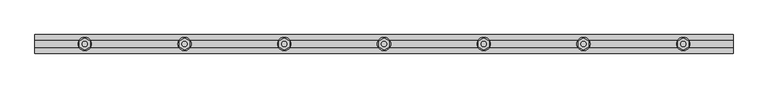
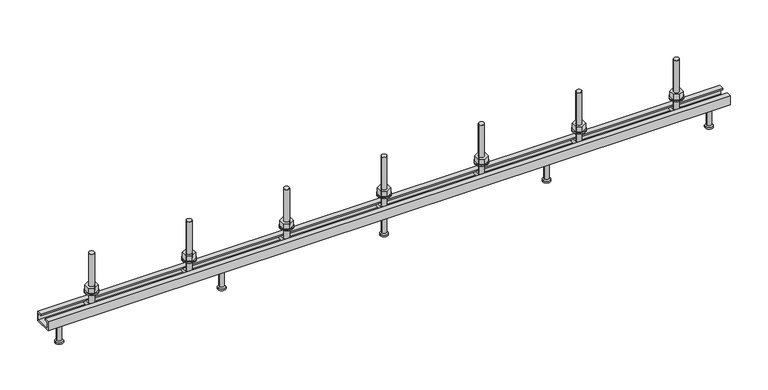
"""IFC4 building model written with IfcOpenShell, lengths in millimetres: fastener geometry, JTA-K JORDAHL® AnchorChannels : JTA-K L=1050 mm."""

from ifc_helpers import new_model, si_unit, point, frame, frame_2d, origin, place, context, project, spatial, polyline, circle_curve, trimmed, segment, composite_curve, outline, extrude, source, transform, mapped, element, save
from ifc_brep_helpers import plane_surface, cylinder_surface, revolved_surface, advanced_brep


def fastener_a3984f85(model_context):
    return source(origin(), model_context, "Body", "SolidModel", [
        extrude(outline(polyline([(825.0, 9.2376043), (833.0, 4.6188022), (833.0, -4.6188022), (825.0, -9.2376043), (817.0, -4.6188022), (817.0, 4.6188022), (825.0, 9.2376043)]), holes=[composite_curve([segment(trimmed(circle_curve(frame_2d((825.0, 0.0)), 4.0), [point((821.0, 0.0))], [point((829.0, 0.0))], True, "CARTESIAN"), True, "CONTINUOUS"), segment(trimmed(circle_curve(frame_2d((825.0, 0.0)), 4.0), [point((829.0, 0.0))], [point((821.0, 0.0))], True, "CARTESIAN"), True, "CONTINUOUS")], self_intersect=False)]), frame((0.0, 0.0, 17.0), z_axis=(0.0, 0.0, 1.0), x_axis=(1.0, 0.0, 0.0)), (0.0, 0.0, 1.0), 8.4),
        extrude(outline(composite_curve([segment(trimmed(circle_curve(frame_2d((825.0, 0.0)), 10.0), [point((815.0, 0.0))], [point((835.0, 0.0))], False, "CARTESIAN"), True, "CONTINUOUS"), segment(trimmed(circle_curve(frame_2d((825.0, 0.0)), 10.0), [point((835.0, 0.0))], [point((815.0, 0.0))], False, "CARTESIAN"), True, "CONTINUOUS")], self_intersect=False), holes=[composite_curve([segment(trimmed(circle_curve(frame_2d((825.0, 0.0)), 5.25), [point((819.75, 0.0))], [point((830.25, 0.0))], True, "CARTESIAN"), True, "CONTINUOUS"), segment(trimmed(circle_curve(frame_2d((825.0, 0.0)), 5.25), [point((830.25, 0.0))], [point((819.75, 0.0))], True, "CARTESIAN"), True, "CONTINUOUS")], self_intersect=False)]), frame((0.0, 0.0, 15.0), z_axis=(0.0, 0.0, 1.0), x_axis=(1.0, 0.0, 0.0)), (0.0, 0.0, 1.0), 2.0),
        extrude(outline(polyline([(675.0, 9.2376043), (683.0, 4.6188022), (683.0, -4.6188022), (675.0, -9.2376043), (667.0, -4.6188022), (667.0, 4.6188022), (675.0, 9.2376043)]), holes=[composite_curve([segment(trimmed(circle_curve(frame_2d((675.0, 0.0)), 4.0), [point((671.0, 0.0))], [point((679.0, 0.0))], True, "CARTESIAN"), True, "CONTINUOUS"), segment(trimmed(circle_curve(frame_2d((675.0, 0.0)), 4.0), [point((679.0, 0.0))], [point((671.0, 0.0))], True, "CARTESIAN"), True, "CONTINUOUS")], self_intersect=False)]), frame((0.0, 0.0, 17.0), z_axis=(0.0, 0.0, 1.0), x_axis=(1.0, 0.0, 0.0)), (0.0, 0.0, 1.0), 8.4),
        extrude(outline(composite_curve([segment(trimmed(circle_curve(frame_2d((675.0, 0.0)), 10.0), [point((665.0, 0.0))], [point((685.0, 0.0))], False, "CARTESIAN"), True, "CONTINUOUS"), segment(trimmed(circle_curve(frame_2d((675.0, 0.0)), 10.0), [point((685.0, 0.0))], [point((665.0, 0.0))], False, "CARTESIAN"), True, "CONTINUOUS")], self_intersect=False), holes=[composite_curve([segment(trimmed(circle_curve(frame_2d((675.0, 0.0)), 5.25), [point((669.75, 0.0))], [point((680.25, 0.0))], True, "CARTESIAN"), True, "CONTINUOUS"), segment(trimmed(circle_curve(frame_2d((675.0, 0.0)), 5.25), [point((680.25, 0.0))], [point((669.75, 0.0))], True, "CARTESIAN"), True, "CONTINUOUS")], self_intersect=False)]), frame((0.0, 0.0, 15.0), z_axis=(0.0, 0.0, 1.0), x_axis=(1.0, 0.0, 0.0)), (0.0, 0.0, 1.0), 2.0),
        extrude(outline(polyline([(525.0, 9.2376043), (533.0, 4.6188022), (533.0, -4.6188022), (525.0, -9.2376043), (517.0, -4.6188022), (517.0, 4.6188022), (525.0, 9.2376043)]), holes=[composite_curve([segment(trimmed(circle_curve(frame_2d((525.0, 0.0)), 4.0), [point((521.0, 0.0))], [point((529.0, 0.0))], True, "CARTESIAN"), True, "CONTINUOUS"), segment(trimmed(circle_curve(frame_2d((525.0, 0.0)), 4.0), [point((529.0, 0.0))], [point((521.0, 0.0))], True, "CARTESIAN"), True, "CONTINUOUS")], self_intersect=False)]), frame((0.0, 0.0, 17.0), z_axis=(0.0, 0.0, 1.0), x_axis=(1.0, 0.0, 0.0)), (0.0, 0.0, 1.0), 8.4),
        extrude(outline(composite_curve([segment(trimmed(circle_curve(frame_2d((525.0, 0.0)), 10.0), [point((515.0, 0.0))], [point((535.0, 0.0))], False, "CARTESIAN"), True, "CONTINUOUS"), segment(trimmed(circle_curve(frame_2d((525.0, 0.0)), 10.0), [point((535.0, 0.0))], [point((515.0, 0.0))], False, "CARTESIAN"), True, "CONTINUOUS")], self_intersect=False), holes=[composite_curve([segment(trimmed(circle_curve(frame_2d((525.0, 0.0)), 5.25), [point((519.75, 0.0))], [point((530.25, 0.0))], True, "CARTESIAN"), True, "CONTINUOUS"), segment(trimmed(circle_curve(frame_2d((525.0, 0.0)), 5.25), [point((530.25, 0.0))], [point((519.75, 0.0))], True, "CARTESIAN"), True, "CONTINUOUS")], self_intersect=False)]), frame((0.0, 0.0, 15.0), z_axis=(0.0, 0.0, 1.0), x_axis=(1.0, 0.0, 0.0)), (0.0, 0.0, 1.0), 2.0),
        extrude(outline(polyline([(375.0, 9.2376043), (383.0, 4.6188022), (383.0, -4.6188022), (375.0, -9.2376043), (367.0, -4.6188022), (367.0, 4.6188022), (375.0, 9.2376043)]), holes=[composite_curve([segment(trimmed(circle_curve(frame_2d((375.0, 0.0)), 4.0), [point((371.0, 0.0))], [point((379.0, 0.0))], True, "CARTESIAN"), True, "CONTINUOUS"), segment(trimmed(circle_curve(frame_2d((375.0, 0.0)), 4.0), [point((379.0, 0.0))], [point((371.0, 0.0))], True, "CARTESIAN"), True, "CONTINUOUS")], self_intersect=False)]), frame((0.0, 0.0, 17.0), z_axis=(0.0, 0.0, 1.0), x_axis=(1.0, 0.0, 0.0)), (0.0, 0.0, 1.0), 8.4),
        extrude(outline(composite_curve([segment(trimmed(circle_curve(frame_2d((375.0, 0.0)), 10.0), [point((365.0, 0.0))], [point((385.0, 0.0))], False, "CARTESIAN"), True, "CONTINUOUS"), segment(trimmed(circle_curve(frame_2d((375.0, 0.0)), 10.0), [point((385.0, 0.0))], [point((365.0, 0.0))], False, "CARTESIAN"), True, "CONTINUOUS")], self_intersect=False), holes=[composite_curve([segment(trimmed(circle_curve(frame_2d((375.0, 0.0)), 5.25), [point((369.75, 0.0))], [point((380.25, 0.0))], True, "CARTESIAN"), True, "CONTINUOUS"), segment(trimmed(circle_curve(frame_2d((375.0, 0.0)), 5.25), [point((380.25, 0.0))], [point((369.75, 0.0))], True, "CARTESIAN"), True, "CONTINUOUS")], self_intersect=False)]), frame((0.0, 0.0, 15.0), z_axis=(0.0, 0.0, 1.0), x_axis=(1.0, 0.0, 0.0)), (0.0, 0.0, 1.0), 2.0),
        extrude(outline(polyline([(225.0, 9.2376043), (233.0, 4.6188022), (233.0, -4.6188022), (225.0, -9.2376043), (217.0, -4.6188022), (217.0, 4.6188022), (225.0, 9.2376043)]), holes=[composite_curve([segment(trimmed(circle_curve(frame_2d((225.0, 0.0)), 4.0), [point((221.0, 0.0))], [point((229.0, 0.0))], True, "CARTESIAN"), True, "CONTINUOUS"), segment(trimmed(circle_curve(frame_2d((225.0, 0.0)), 4.0), [point((229.0, 0.0))], [point((221.0, 0.0))], True, "CARTESIAN"), True, "CONTINUOUS")], self_intersect=False)]), frame((0.0, 0.0, 17.0), z_axis=(0.0, 0.0, 1.0), x_axis=(1.0, 0.0, 0.0)), (0.0, 0.0, 1.0), 8.4),
        extrude(outline(composite_curve([segment(trimmed(circle_curve(frame_2d((225.0, 0.0)), 10.0), [point((215.0, 0.0))], [point((235.0, 0.0))], False, "CARTESIAN"), True, "CONTINUOUS"), segment(trimmed(circle_curve(frame_2d((225.0, 0.0)), 10.0), [point((235.0, 0.0))], [point((215.0, 0.0))], False, "CARTESIAN"), True, "CONTINUOUS")], self_intersect=False), holes=[composite_curve([segment(trimmed(circle_curve(frame_2d((225.0, 0.0)), 5.25), [point((219.75, 0.0))], [point((230.25, 0.0))], True, "CARTESIAN"), True, "CONTINUOUS"), segment(trimmed(circle_curve(frame_2d((225.0, 0.0)), 5.25), [point((230.25, 0.0))], [point((219.75, 0.0))], True, "CARTESIAN"), True, "CONTINUOUS")], self_intersect=False)]), frame((0.0, 0.0, 15.0), z_axis=(0.0, 0.0, 1.0), x_axis=(1.0, 0.0, 0.0)), (0.0, 0.0, 1.0), 2.0),
        advanced_brep(
        [(830.5, 11.0, -2.3), (830.5, -11.0, -2.3), (830.5, -11.0, -8.3), (830.5, 11.0, -8.3), (819.5, 11.0, -2.3), (819.5, 11.0, -8.3), (819.5, -11.0, -8.3), (819.5, -11.0, -2.3), (829.0, 0.0, -2.3), (821.0, 0.0, -2.3), (821.0, 0.0, 77.7), (829.0, 0.0, 77.7)],
        [
            (0, 1),
            (1, 2),
            (2, 3),
            (3, 0),
            (4, 5),
            (5, 6),
            (6, 7),
            (7, 4),
            (0, 4),
            (7, 1),
            (8, 9, circle_curve(frame((825.0, 0.0, -2.3), z_axis=(0.0, 0.0, -1.0), x_axis=(1.0, 0.0, 0.0)), 4.0)),
            (9, 8, circle_curve(frame((825.0, 0.0, -2.3), z_axis=(0.0, 0.0, -1.0), x_axis=(1.0, 0.0, 0.0)), 4.0)),
            (6, 2),
            (5, 3),
            (10, 11, circle_curve(frame((825.0, 0.0, 77.7), z_axis=(0.0, 0.0, 1.0), x_axis=(1.0, 0.0, 0.0)), 4.0)),
            (11, 10, circle_curve(frame((825.0, 0.0, 77.7), z_axis=(0.0, 0.0, 1.0), x_axis=(1.0, 0.0, 0.0)), 4.0)),
            (10, 9),
            (8, 11),
        ],
        [
            plane_surface(frame((830.5, -11.0, -2.3), z_axis=(1.0, 0.0, 0.0), x_axis=(0.0, -1.0, 0.0))),
            plane_surface(frame((819.5, -11.0, -2.3), z_axis=(-1.0, 0.0, 0.0), x_axis=(0.0, 1.0, 0.0))),
            plane_surface(frame((830.5, 11.0, -2.3), z_axis=(0.0, 0.0, 1.0), x_axis=(-1.0, 0.0, 0.0))),
            plane_surface(frame((830.5, -11.0, -2.3), z_axis=(0.0, -1.0, 0.0), x_axis=(-1.0, 0.0, 0.0))),
            plane_surface(frame((830.5, -11.0, -8.3), z_axis=(0.0, 0.0, -1.0), x_axis=(-1.0, 0.0, 0.0))),
            plane_surface(frame((830.5, 11.0, -8.3), z_axis=(0.0, 1.0, 0.0), x_axis=(-1.0, 0.0, 0.0))),
            plane_surface(frame((829.0, 0.0, 77.7), z_axis=(0.0, 0.0, 1.0), x_axis=(0.0, 1.0, 0.0))),
            cylinder_surface(frame((825.0, 0.0, -2.3), z_axis=(0.0, 0.0, 1.0), x_axis=(1.0, 0.0, 0.0)), 4.0),
        ],
        [
            (0, [[1, 2, 3, 4]]),
            (1, [[5, 6, 7, 8]]),
            (2, [[-1, 9, -8, 10], [11, 12]]),
            (3, [[-2, -10, -7, 13]]),
            (4, [[-3, -13, -6, 14]]),
            (5, [[-4, -14, -5, -9]]),
            (6, [[15, 16]]),
            (7, [[-15, 17, -11, 18]]),
            (7, [[-16, -18, -12, -17]]),
        ],
    ),
        advanced_brep(
        [(680.5, 11.0, -2.3), (680.5, -11.0, -2.3), (680.5, -11.0, -8.3), (680.5, 11.0, -8.3), (669.5, 11.0, -2.3), (669.5, 11.0, -8.3), (669.5, -11.0, -8.3), (669.5, -11.0, -2.3), (679.0, 0.0, -2.3), (671.0, 0.0, -2.3), (671.0, 0.0, 77.7), (679.0, 0.0, 77.7)],
        [
            (0, 1),
            (1, 2),
            (2, 3),
            (3, 0),
            (4, 5),
            (5, 6),
            (6, 7),
            (7, 4),
            (0, 4),
            (7, 1),
            (8, 9, circle_curve(frame((675.0, 0.0, -2.3), z_axis=(0.0, 0.0, -1.0), x_axis=(1.0, 0.0, 0.0)), 4.0)),
            (9, 8, circle_curve(frame((675.0, 0.0, -2.3), z_axis=(0.0, 0.0, -1.0), x_axis=(1.0, 0.0, 0.0)), 4.0)),
            (6, 2),
            (5, 3),
            (10, 11, circle_curve(frame((675.0, 0.0, 77.7), z_axis=(0.0, 0.0, 1.0), x_axis=(1.0, 0.0, 0.0)), 4.0)),
            (11, 10, circle_curve(frame((675.0, 0.0, 77.7), z_axis=(0.0, 0.0, 1.0), x_axis=(1.0, 0.0, 0.0)), 4.0)),
            (10, 9),
            (8, 11),
        ],
        [
            plane_surface(frame((680.5, -11.0, -2.3), z_axis=(1.0, 0.0, 0.0), x_axis=(0.0, -1.0, 0.0))),
            plane_surface(frame((669.5, -11.0, -2.3), z_axis=(-1.0, 0.0, 0.0), x_axis=(0.0, 1.0, 0.0))),
            plane_surface(frame((680.5, 11.0, -2.3), z_axis=(0.0, 0.0, 1.0), x_axis=(-1.0, 0.0, 0.0))),
            plane_surface(frame((680.5, -11.0, -2.3), z_axis=(0.0, -1.0, 0.0), x_axis=(-1.0, 0.0, 0.0))),
            plane_surface(frame((680.5, -11.0, -8.3), z_axis=(0.0, 0.0, -1.0), x_axis=(-1.0, 0.0, 0.0))),
            plane_surface(frame((680.5, 11.0, -8.3), z_axis=(0.0, 1.0, 0.0), x_axis=(-1.0, 0.0, 0.0))),
            plane_surface(frame((679.0, 0.0, 77.7), z_axis=(0.0, 0.0, 1.0), x_axis=(0.0, 1.0, 0.0))),
            cylinder_surface(frame((675.0, 0.0, -2.3), z_axis=(0.0, 0.0, 1.0), x_axis=(1.0, 0.0, 0.0)), 4.0),
        ],
        [
            (0, [[1, 2, 3, 4]]),
            (1, [[5, 6, 7, 8]]),
            (2, [[-1, 9, -8, 10], [11, 12]]),
            (3, [[-2, -10, -7, 13]]),
            (4, [[-3, -13, -6, 14]]),
            (5, [[-4, -14, -5, -9]]),
            (6, [[15, 16]]),
            (7, [[-15, 17, -11, 18]]),
            (7, [[-16, -18, -12, -17]]),
        ],
    ),
        advanced_brep(
        [(530.5, 11.0, -2.3), (530.5, -11.0, -2.3), (530.5, -11.0, -8.3), (530.5, 11.0, -8.3), (519.5, 11.0, -2.3), (519.5, 11.0, -8.3), (519.5, -11.0, -8.3), (519.5, -11.0, -2.3), (529.0, 0.0, -2.3), (521.0, 0.0, -2.3), (521.0, 0.0, 77.7), (529.0, 0.0, 77.7)],
        [
            (0, 1),
            (1, 2),
            (2, 3),
            (3, 0),
            (4, 5),
            (5, 6),
            (6, 7),
            (7, 4),
            (0, 4),
            (7, 1),
            (8, 9, circle_curve(frame((525.0, 0.0, -2.3), z_axis=(0.0, 0.0, -1.0), x_axis=(1.0, 0.0, 0.0)), 4.0)),
            (9, 8, circle_curve(frame((525.0, 0.0, -2.3), z_axis=(0.0, 0.0, -1.0), x_axis=(1.0, 0.0, 0.0)), 4.0)),
            (6, 2),
            (5, 3),
            (10, 11, circle_curve(frame((525.0, 0.0, 77.7), z_axis=(0.0, 0.0, 1.0), x_axis=(1.0, 0.0, 0.0)), 4.0)),
            (11, 10, circle_curve(frame((525.0, 0.0, 77.7), z_axis=(0.0, 0.0, 1.0), x_axis=(1.0, 0.0, 0.0)), 4.0)),
            (10, 9),
            (8, 11),
        ],
        [
            plane_surface(frame((530.5, -11.0, -2.3), z_axis=(1.0, 0.0, 0.0), x_axis=(0.0, -1.0, 0.0))),
            plane_surface(frame((519.5, -11.0, -2.3), z_axis=(-1.0, 0.0, 0.0), x_axis=(0.0, 1.0, 0.0))),
            plane_surface(frame((530.5, 11.0, -2.3), z_axis=(0.0, 0.0, 1.0), x_axis=(-1.0, 0.0, 0.0))),
            plane_surface(frame((530.5, -11.0, -2.3), z_axis=(0.0, -1.0, 0.0), x_axis=(-1.0, 0.0, 0.0))),
            plane_surface(frame((530.5, -11.0, -8.3), z_axis=(0.0, 0.0, -1.0), x_axis=(-1.0, 0.0, 0.0))),
            plane_surface(frame((530.5, 11.0, -8.3), z_axis=(0.0, 1.0, 0.0), x_axis=(-1.0, 0.0, 0.0))),
            plane_surface(frame((529.0, 0.0, 77.7), z_axis=(0.0, 0.0, 1.0), x_axis=(0.0, 1.0, 0.0))),
            cylinder_surface(frame((525.0, 0.0, -2.3), z_axis=(0.0, 0.0, 1.0), x_axis=(1.0, 0.0, 0.0)), 4.0),
        ],
        [
            (0, [[1, 2, 3, 4]]),
            (1, [[5, 6, 7, 8]]),
            (2, [[-1, 9, -8, 10], [11, 12]]),
            (3, [[-2, -10, -7, 13]]),
            (4, [[-3, -13, -6, 14]]),
            (5, [[-4, -14, -5, -9]]),
            (6, [[15, 16]]),
            (7, [[-15, 17, -11, 18]]),
            (7, [[-16, -18, -12, -17]]),
        ],
    ),
        advanced_brep(
        [(380.5, 11.0, -2.3), (380.5, -11.0, -2.3), (380.5, -11.0, -8.3), (380.5, 11.0, -8.3), (369.5, 11.0, -2.3), (369.5, 11.0, -8.3), (369.5, -11.0, -8.3), (369.5, -11.0, -2.3), (379.0, 0.0, -2.3), (371.0, 0.0, -2.3), (371.0, 0.0, 77.7), (379.0, 0.0, 77.7)],
        [
            (0, 1),
            (1, 2),
            (2, 3),
            (3, 0),
            (4, 5),
            (5, 6),
            (6, 7),
            (7, 4),
            (0, 4),
            (7, 1),
            (8, 9, circle_curve(frame((375.0, 0.0, -2.3), z_axis=(0.0, 0.0, -1.0), x_axis=(1.0, 0.0, 0.0)), 4.0)),
            (9, 8, circle_curve(frame((375.0, 0.0, -2.3), z_axis=(0.0, 0.0, -1.0), x_axis=(1.0, 0.0, 0.0)), 4.0)),
            (6, 2),
            (5, 3),
            (10, 11, circle_curve(frame((375.0, 0.0, 77.7), z_axis=(0.0, 0.0, 1.0), x_axis=(1.0, 0.0, 0.0)), 4.0)),
            (11, 10, circle_curve(frame((375.0, 0.0, 77.7), z_axis=(0.0, 0.0, 1.0), x_axis=(1.0, 0.0, 0.0)), 4.0)),
            (10, 9),
            (8, 11),
        ],
        [
            plane_surface(frame((380.5, -11.0, -2.3), z_axis=(1.0, 0.0, 0.0), x_axis=(0.0, -1.0, 0.0))),
            plane_surface(frame((369.5, -11.0, -2.3), z_axis=(-1.0, 0.0, 0.0), x_axis=(0.0, 1.0, 0.0))),
            plane_surface(frame((380.5, 11.0, -2.3), z_axis=(0.0, 0.0, 1.0), x_axis=(-1.0, 0.0, 0.0))),
            plane_surface(frame((380.5, -11.0, -2.3), z_axis=(0.0, -1.0, 0.0), x_axis=(-1.0, 0.0, 0.0))),
            plane_surface(frame((380.5, -11.0, -8.3), z_axis=(0.0, 0.0, -1.0), x_axis=(-1.0, 0.0, 0.0))),
            plane_surface(frame((380.5, 11.0, -8.3), z_axis=(0.0, 1.0, 0.0), x_axis=(-1.0, 0.0, 0.0))),
            plane_surface(frame((379.0, 0.0, 77.7), z_axis=(0.0, 0.0, 1.0), x_axis=(0.0, 1.0, 0.0))),
            cylinder_surface(frame((375.0, 0.0, -2.3), z_axis=(0.0, 0.0, 1.0), x_axis=(1.0, 0.0, 0.0)), 4.0),
        ],
        [
            (0, [[1, 2, 3, 4]]),
            (1, [[5, 6, 7, 8]]),
            (2, [[-1, 9, -8, 10], [11, 12]]),
            (3, [[-2, -10, -7, 13]]),
            (4, [[-3, -13, -6, 14]]),
            (5, [[-4, -14, -5, -9]]),
            (6, [[15, 16]]),
            (7, [[-15, 17, -11, 18]]),
            (7, [[-16, -18, -12, -17]]),
        ],
    ),
        advanced_brep(
        [(230.5, 11.0, -2.3), (230.5, -11.0, -2.3), (230.5, -11.0, -8.3), (230.5, 11.0, -8.3), (219.5, 11.0, -2.3), (219.5, 11.0, -8.3), (219.5, -11.0, -8.3), (219.5, -11.0, -2.3), (229.0, 0.0, -2.3), (221.0, 0.0, -2.3), (221.0, 0.0, 77.7), (229.0, 0.0, 77.7)],
        [
            (0, 1),
            (1, 2),
            (2, 3),
            (3, 0),
            (4, 5),
            (5, 6),
            (6, 7),
            (7, 4),
            (0, 4),
            (7, 1),
            (8, 9, circle_curve(frame((225.0, 0.0, -2.3), z_axis=(0.0, 0.0, -1.0), x_axis=(1.0, 0.0, 0.0)), 4.0)),
            (9, 8, circle_curve(frame((225.0, 0.0, -2.3), z_axis=(0.0, 0.0, -1.0), x_axis=(1.0, 0.0, 0.0)), 4.0)),
            (6, 2),
            (5, 3),
            (10, 11, circle_curve(frame((225.0, 0.0, 77.7), z_axis=(0.0, 0.0, 1.0), x_axis=(1.0, 0.0, 0.0)), 4.0)),
            (11, 10, circle_curve(frame((225.0, 0.0, 77.7), z_axis=(0.0, 0.0, 1.0), x_axis=(1.0, 0.0, 0.0)), 4.0)),
            (10, 9),
            (8, 11),
        ],
        [
            plane_surface(frame((230.5, -11.0, -2.3), z_axis=(1.0, 0.0, 0.0), x_axis=(0.0, -1.0, 0.0))),
            plane_surface(frame((219.5, -11.0, -2.3), z_axis=(-1.0, 0.0, 0.0), x_axis=(0.0, 1.0, 0.0))),
            plane_surface(frame((230.5, 11.0, -2.3), z_axis=(0.0, 0.0, 1.0), x_axis=(-1.0, 0.0, 0.0))),
            plane_surface(frame((230.5, -11.0, -2.3), z_axis=(0.0, -1.0, 0.0), x_axis=(-1.0, 0.0, 0.0))),
            plane_surface(frame((230.5, -11.0, -8.3), z_axis=(0.0, 0.0, -1.0), x_axis=(-1.0, 0.0, 0.0))),
            plane_surface(frame((230.5, 11.0, -8.3), z_axis=(0.0, 1.0, 0.0), x_axis=(-1.0, 0.0, 0.0))),
            plane_surface(frame((229.0, 0.0, 77.7), z_axis=(0.0, 0.0, 1.0), x_axis=(0.0, 1.0, 0.0))),
            cylinder_surface(frame((225.0, 0.0, -2.3), z_axis=(0.0, 0.0, 1.0), x_axis=(1.0, 0.0, 0.0)), 4.0),
        ],
        [
            (0, [[1, 2, 3, 4]]),
            (1, [[5, 6, 7, 8]]),
            (2, [[-1, 9, -8, 10], [11, 12]]),
            (3, [[-2, -10, -7, 13]]),
            (4, [[-3, -13, -6, 14]]),
            (5, [[-4, -14, -5, -9]]),
            (6, [[15, 16]]),
            (7, [[-15, 17, -11, 18]]),
            (7, [[-16, -18, -12, -17]]),
        ],
    ),
        advanced_brep(
        [(775.0, 0.0, -15.0), (785.5, 0.0, -15.0), (764.5, 0.0, -15.0), (769.0, 0.0, -50.0), (781.0, 0.0, -50.0), (775.0, 0.0, -50.0), (769.0, 0.0, -48.0), (781.0, 0.0, -48.0), (771.5, 0.0, -46.5566243), (778.5, 0.0, -46.5566243), (771.5, 0.0, -17.5), (778.5, 0.0, -17.5)],
        [
            (0, 1),
            (1, 2, circle_curve(frame((775.0, 0.0, -15.0), z_axis=(0.0, 0.0, 1.0), x_axis=(1.0, 0.0, 0.0)), 10.5)),
            (2, 0),
            (2, 1, circle_curve(frame((775.0, 0.0, -15.0), z_axis=(0.0, 0.0, 1.0), x_axis=(1.0, 0.0, 0.0)), 10.5)),
            (3, 4, circle_curve(frame((775.0, 0.0, -50.0), z_axis=(0.0, 0.0, -1.0), x_axis=(1.0, 0.0, 0.0)), 6.0)),
            (4, 5),
            (5, 3),
            (4, 3, circle_curve(frame((775.0, 0.0, -50.0), z_axis=(0.0, 0.0, -1.0), x_axis=(1.0, 0.0, 0.0)), 6.0)),
            (6, 7, circle_curve(frame((775.0, 0.0, -48.0), z_axis=(0.0, 0.0, -1.0), x_axis=(1.0, 0.0, 0.0)), 6.0)),
            (7, 4),
            (3, 6),
            (7, 6, circle_curve(frame((775.0, 0.0, -48.0), z_axis=(0.0, 0.0, -1.0), x_axis=(1.0, 0.0, 0.0)), 6.0)),
            (8, 9, circle_curve(frame((775.0, 0.0, -46.5566243), z_axis=(0.0, 0.0, -1.0), x_axis=(1.0, 0.0, 0.0)), 3.5)),
            (9, 7),
            (6, 8),
            (9, 8, circle_curve(frame((775.0, 0.0, -46.5566243), z_axis=(0.0, 0.0, -1.0), x_axis=(1.0, 0.0, 0.0)), 3.5)),
            (10, 11, circle_curve(frame((775.0, 0.0, -17.5), z_axis=(0.0, 0.0, -1.0), x_axis=(1.0, 0.0, 0.0)), 3.5)),
            (11, 9),
            (8, 10),
            (11, 10, circle_curve(frame((775.0, 0.0, -17.5), z_axis=(0.0, 0.0, -1.0), x_axis=(1.0, 0.0, 0.0)), 3.5)),
            (1, 11),
            (10, 2),
        ],
        [
            plane_surface(frame((775.0, 0.0, -15.0), z_axis=(0.0, 0.0, 1.0), x_axis=(1.0, 0.0, 0.0))),
            plane_surface(frame((775.0, 0.0, -50.0), z_axis=(0.0, 0.0, -1.0), x_axis=(1.0, 0.0, 0.0))),
            cylinder_surface(frame((775.0, 0.0, 2249.3150031), z_axis=(0.0, 0.0, 1.0), x_axis=(1.0, 0.0, 0.0)), 6.0),
            revolved_surface(polyline([(781.0, 0.0, -48.0), (778.5, 0.0, -46.5566243)]), (775.0, 0.0, 2249.3150031), (0.0, 0.0, 1.0)),
            cylinder_surface(frame((775.0, 0.0, 2249.3150031), z_axis=(0.0, 0.0, 1.0), x_axis=(1.0, 0.0, 0.0)), 3.5),
            revolved_surface(polyline([(778.5, 0.0, -17.5), (785.5, 0.0, -15.0)]), (775.0, 0.0, 2249.3150031), (0.0, 0.0, 1.0)),
        ],
        [
            (0, [[1, 2, 3]]),
            (0, [[-3, 4, -1]]),
            (1, [[5, 6, 7]]),
            (1, [[8, -7, -6]]),
            (2, [[9, 10, -5, 11]]),
            (2, [[12, -11, -8, -10]]),
            (3, [[13, 14, -9, 15]]),
            (3, [[16, -15, -12, -14]]),
            (4, [[17, 18, -13, 19]]),
            (4, [[20, -19, -16, -18]]),
            (5, [[-2, 21, -17, 22]]),
            (5, [[-4, -22, -20, -21]]),
        ],
    ),
        advanced_brep(
        [(525.0, 0.0, -15.0), (535.5, 0.0, -15.0), (514.5, 0.0, -15.0), (519.0, 0.0, -50.0), (531.0, 0.0, -50.0), (525.0, 0.0, -50.0), (519.0, 0.0, -48.0), (531.0, 0.0, -48.0), (521.5, 0.0, -46.5566243), (528.5, 0.0, -46.5566243), (521.5, 0.0, -17.5), (528.5, 0.0, -17.5)],
        [
            (0, 1),
            (1, 2, circle_curve(frame((525.0, 0.0, -15.0), z_axis=(0.0, 0.0, 1.0), x_axis=(1.0, 0.0, 0.0)), 10.5)),
            (2, 0),
            (2, 1, circle_curve(frame((525.0, 0.0, -15.0), z_axis=(0.0, 0.0, 1.0), x_axis=(1.0, 0.0, 0.0)), 10.5)),
            (3, 4, circle_curve(frame((525.0, 0.0, -50.0), z_axis=(0.0, 0.0, -1.0), x_axis=(1.0, 0.0, 0.0)), 6.0)),
            (4, 5),
            (5, 3),
            (4, 3, circle_curve(frame((525.0, 0.0, -50.0), z_axis=(0.0, 0.0, -1.0), x_axis=(1.0, 0.0, 0.0)), 6.0)),
            (6, 7, circle_curve(frame((525.0, 0.0, -48.0), z_axis=(0.0, 0.0, -1.0), x_axis=(1.0, 0.0, 0.0)), 6.0)),
            (7, 4),
            (3, 6),
            (7, 6, circle_curve(frame((525.0, 0.0, -48.0), z_axis=(0.0, 0.0, -1.0), x_axis=(1.0, 0.0, 0.0)), 6.0)),
            (8, 9, circle_curve(frame((525.0, 0.0, -46.5566243), z_axis=(0.0, 0.0, -1.0), x_axis=(1.0, 0.0, 0.0)), 3.5)),
            (9, 7),
            (6, 8),
            (9, 8, circle_curve(frame((525.0, 0.0, -46.5566243), z_axis=(0.0, 0.0, -1.0), x_axis=(1.0, 0.0, 0.0)), 3.5)),
            (10, 11, circle_curve(frame((525.0, 0.0, -17.5), z_axis=(0.0, 0.0, -1.0), x_axis=(1.0, 0.0, 0.0)), 3.5)),
            (11, 9),
            (8, 10),
            (11, 10, circle_curve(frame((525.0, 0.0, -17.5), z_axis=(0.0, 0.0, -1.0), x_axis=(1.0, 0.0, 0.0)), 3.5)),
            (1, 11),
            (10, 2),
        ],
        [
            plane_surface(frame((525.0, 0.0, -15.0), z_axis=(0.0, 0.0, 1.0), x_axis=(1.0, 0.0, 0.0))),
            plane_surface(frame((525.0, 0.0, -50.0), z_axis=(0.0, 0.0, -1.0), x_axis=(1.0, 0.0, 0.0))),
            cylinder_surface(frame((525.0, 0.0, 2249.3150031), z_axis=(0.0, 0.0, 1.0), x_axis=(1.0, 0.0, 0.0)), 6.0),
            revolved_surface(polyline([(531.0, 0.0, -48.0), (528.5, 0.0, -46.5566243)]), (525.0, 0.0, 2249.3150031), (0.0, 0.0, 1.0)),
            cylinder_surface(frame((525.0, 0.0, 2249.3150031), z_axis=(0.0, 0.0, 1.0), x_axis=(1.0, 0.0, 0.0)), 3.5),
            revolved_surface(polyline([(528.5, 0.0, -17.5), (535.5, 0.0, -15.0)]), (525.0, 0.0, 2249.3150031), (0.0, 0.0, 1.0)),
        ],
        [
            (0, [[1, 2, 3]]),
            (0, [[-3, 4, -1]]),
            (1, [[5, 6, 7]]),
            (1, [[8, -7, -6]]),
            (2, [[9, 10, -5, 11]]),
            (2, [[12, -11, -8, -10]]),
            (3, [[13, 14, -9, 15]]),
            (3, [[16, -15, -12, -14]]),
            (4, [[17, 18, -13, 19]]),
            (4, [[20, -19, -16, -18]]),
            (5, [[-2, 21, -17, 22]]),
            (5, [[-4, -22, -20, -21]]),
        ],
    ),
        advanced_brep(
        [(275.0, 0.0, -15.0), (285.5, 0.0, -15.0), (264.5, 0.0, -15.0), (269.0, 0.0, -50.0), (281.0, 0.0, -50.0), (275.0, 0.0, -50.0), (269.0, 0.0, -48.0), (281.0, 0.0, -48.0), (271.5, 0.0, -46.5566243), (278.5, 0.0, -46.5566243), (271.5, 0.0, -17.5), (278.5, 0.0, -17.5)],
        [
            (0, 1),
            (1, 2, circle_curve(frame((275.0, 0.0, -15.0), z_axis=(0.0, 0.0, 1.0), x_axis=(1.0, 0.0, 0.0)), 10.5)),
            (2, 0),
            (2, 1, circle_curve(frame((275.0, 0.0, -15.0), z_axis=(0.0, 0.0, 1.0), x_axis=(1.0, 0.0, 0.0)), 10.5)),
            (3, 4, circle_curve(frame((275.0, 0.0, -50.0), z_axis=(0.0, 0.0, -1.0), x_axis=(1.0, 0.0, 0.0)), 6.0)),
            (4, 5),
            (5, 3),
            (4, 3, circle_curve(frame((275.0, 0.0, -50.0), z_axis=(0.0, 0.0, -1.0), x_axis=(1.0, 0.0, 0.0)), 6.0)),
            (6, 7, circle_curve(frame((275.0, 0.0, -48.0), z_axis=(0.0, 0.0, -1.0), x_axis=(1.0, 0.0, 0.0)), 6.0)),
            (7, 4),
            (3, 6),
            (7, 6, circle_curve(frame((275.0, 0.0, -48.0), z_axis=(0.0, 0.0, -1.0), x_axis=(1.0, 0.0, 0.0)), 6.0)),
            (8, 9, circle_curve(frame((275.0, 0.0, -46.5566243), z_axis=(0.0, 0.0, -1.0), x_axis=(1.0, 0.0, 0.0)), 3.5)),
            (9, 7),
            (6, 8),
            (9, 8, circle_curve(frame((275.0, 0.0, -46.5566243), z_axis=(0.0, 0.0, -1.0), x_axis=(1.0, 0.0, 0.0)), 3.5)),
            (10, 11, circle_curve(frame((275.0, 0.0, -17.5), z_axis=(0.0, 0.0, -1.0), x_axis=(1.0, 0.0, 0.0)), 3.5)),
            (11, 9),
            (8, 10),
            (11, 10, circle_curve(frame((275.0, 0.0, -17.5), z_axis=(0.0, 0.0, -1.0), x_axis=(1.0, 0.0, 0.0)), 3.5)),
            (1, 11),
            (10, 2),
        ],
        [
            plane_surface(frame((275.0, 0.0, -15.0), z_axis=(0.0, 0.0, 1.0), x_axis=(1.0, 0.0, 0.0))),
            plane_surface(frame((275.0, 0.0, -50.0), z_axis=(0.0, 0.0, -1.0), x_axis=(1.0, 0.0, 0.0))),
            cylinder_surface(frame((275.0, 0.0, 2249.3150031), z_axis=(0.0, 0.0, 1.0), x_axis=(1.0, 0.0, 0.0)), 6.0),
            revolved_surface(polyline([(281.0, 0.0, -48.0), (278.5, 0.0, -46.5566243)]), (275.0, 0.0, 2249.3150031), (0.0, 0.0, 1.0)),
            cylinder_surface(frame((275.0, 0.0, 2249.3150031), z_axis=(0.0, 0.0, 1.0), x_axis=(1.0, 0.0, 0.0)), 3.5),
            revolved_surface(polyline([(278.5, 0.0, -17.5), (285.5, 0.0, -15.0)]), (275.0, 0.0, 2249.3150031), (0.0, 0.0, 1.0)),
        ],
        [
            (0, [[1, 2, 3]]),
            (0, [[-3, 4, -1]]),
            (1, [[5, 6, 7]]),
            (1, [[8, -7, -6]]),
            (2, [[9, 10, -5, 11]]),
            (2, [[12, -11, -8, -10]]),
            (3, [[13, 14, -9, 15]]),
            (3, [[16, -15, -12, -14]]),
            (4, [[17, 18, -13, 19]]),
            (4, [[20, -19, -16, -18]]),
            (5, [[-2, 21, -17, 22]]),
            (5, [[-4, -22, -20, -21]]),
        ],
    ),
        extrude(outline(polyline([(975.0, 9.2376043), (983.0, 4.6188022), (983.0, -4.6188022), (975.0, -9.2376043), (967.0, -4.6188022), (967.0, 4.6188022), (975.0, 9.2376043)]), holes=[composite_curve([segment(trimmed(circle_curve(frame_2d((975.0, 0.0)), 4.0), [point((971.0, 0.0))], [point((979.0, 0.0))], True, "CARTESIAN"), True, "CONTINUOUS"), segment(trimmed(circle_curve(frame_2d((975.0, 0.0)), 4.0), [point((979.0, 0.0))], [point((971.0, 0.0))], True, "CARTESIAN"), True, "CONTINUOUS")], self_intersect=False)]), frame((0.0, 0.0, 17.0), z_axis=(0.0, 0.0, 1.0), x_axis=(1.0, 0.0, 0.0)), (0.0, 0.0, 1.0), 8.4),
        extrude(outline(composite_curve([segment(trimmed(circle_curve(frame_2d((975.0, 0.0)), 10.0), [point((965.0, 0.0))], [point((985.0, 0.0))], False, "CARTESIAN"), True, "CONTINUOUS"), segment(trimmed(circle_curve(frame_2d((975.0, 0.0)), 10.0), [point((985.0, 0.0))], [point((965.0, 0.0))], False, "CARTESIAN"), True, "CONTINUOUS")], self_intersect=False), holes=[composite_curve([segment(trimmed(circle_curve(frame_2d((975.0, 0.0)), 5.25), [point((969.75, 0.0))], [point((980.25, 0.0))], True, "CARTESIAN"), True, "CONTINUOUS"), segment(trimmed(circle_curve(frame_2d((975.0, 0.0)), 5.25), [point((980.25, 0.0))], [point((969.75, 0.0))], True, "CARTESIAN"), True, "CONTINUOUS")], self_intersect=False)]), frame((0.0, 0.0, 15.0), z_axis=(0.0, 0.0, 1.0), x_axis=(1.0, 0.0, 0.0)), (0.0, 0.0, 1.0), 2.0),
        extrude(outline(polyline([(75.0, 9.2376043), (83.0, 4.6188022), (83.0, -4.6188022), (75.0, -9.2376043), (67.0, -4.6188022), (67.0, 4.6188022), (75.0, 9.2376043)]), holes=[composite_curve([segment(trimmed(circle_curve(frame_2d((75.0, 0.0)), 4.0), [point((71.0, 0.0))], [point((79.0, 0.0))], True, "CARTESIAN"), True, "CONTINUOUS"), segment(trimmed(circle_curve(frame_2d((75.0, 0.0)), 4.0), [point((79.0, 0.0))], [point((71.0, 0.0))], True, "CARTESIAN"), True, "CONTINUOUS")], self_intersect=False)]), frame((0.0, 0.0, 17.0), z_axis=(0.0, 0.0, 1.0), x_axis=(1.0, 0.0, 0.0)), (0.0, 0.0, 1.0), 8.4),
        extrude(outline(composite_curve([segment(trimmed(circle_curve(frame_2d((75.0, 0.0)), 10.0), [point((65.0, 0.0))], [point((85.0, 0.0))], False, "CARTESIAN"), True, "CONTINUOUS"), segment(trimmed(circle_curve(frame_2d((75.0, 0.0)), 10.0), [point((85.0, 0.0))], [point((65.0, 0.0))], False, "CARTESIAN"), True, "CONTINUOUS")], self_intersect=False), holes=[composite_curve([segment(trimmed(circle_curve(frame_2d((75.0, 0.0)), 5.25), [point((69.75, 0.0))], [point((80.25, 0.0))], True, "CARTESIAN"), True, "CONTINUOUS"), segment(trimmed(circle_curve(frame_2d((75.0, 0.0)), 5.25), [point((80.25, 0.0))], [point((69.75, 0.0))], True, "CARTESIAN"), True, "CONTINUOUS")], self_intersect=False)]), frame((0.0, 0.0, 15.0), z_axis=(0.0, 0.0, 1.0), x_axis=(1.0, 0.0, 0.0)), (0.0, 0.0, 1.0), 2.0),
        advanced_brep(
        [(980.5, 11.0, -2.3), (980.5, -11.0, -2.3), (980.5, -11.0, -8.3), (980.5, 11.0, -8.3), (969.5, 11.0, -2.3), (969.5, 11.0, -8.3), (969.5, -11.0, -8.3), (969.5, -11.0, -2.3), (979.0, 0.0, -2.3), (971.0, 0.0, -2.3), (971.0, 0.0, 77.7), (979.0, 0.0, 77.7)],
        [
            (0, 1),
            (1, 2),
            (2, 3),
            (3, 0),
            (4, 5),
            (5, 6),
            (6, 7),
            (7, 4),
            (0, 4),
            (7, 1),
            (8, 9, circle_curve(frame((975.0, 0.0, -2.3), z_axis=(0.0, 0.0, -1.0), x_axis=(1.0, 0.0, 0.0)), 4.0)),
            (9, 8, circle_curve(frame((975.0, 0.0, -2.3), z_axis=(0.0, 0.0, -1.0), x_axis=(1.0, 0.0, 0.0)), 4.0)),
            (6, 2),
            (5, 3),
            (10, 11, circle_curve(frame((975.0, 0.0, 77.7), z_axis=(0.0, 0.0, 1.0), x_axis=(1.0, 0.0, 0.0)), 4.0)),
            (11, 10, circle_curve(frame((975.0, 0.0, 77.7), z_axis=(0.0, 0.0, 1.0), x_axis=(1.0, 0.0, 0.0)), 4.0)),
            (10, 9),
            (8, 11),
        ],
        [
            plane_surface(frame((980.5, -11.0, -2.3), z_axis=(1.0, 0.0, 0.0), x_axis=(0.0, -1.0, 0.0))),
            plane_surface(frame((969.5, -11.0, -2.3), z_axis=(-1.0, 0.0, 0.0), x_axis=(0.0, 1.0, 0.0))),
            plane_surface(frame((980.5, 11.0, -2.3), z_axis=(0.0, 0.0, 1.0), x_axis=(-1.0, 0.0, 0.0))),
            plane_surface(frame((980.5, -11.0, -2.3), z_axis=(0.0, -1.0, 0.0), x_axis=(-1.0, 0.0, 0.0))),
            plane_surface(frame((980.5, -11.0, -8.3), z_axis=(0.0, 0.0, -1.0), x_axis=(-1.0, 0.0, 0.0))),
            plane_surface(frame((980.5, 11.0, -8.3), z_axis=(0.0, 1.0, 0.0), x_axis=(-1.0, 0.0, 0.0))),
            plane_surface(frame((979.0, 0.0, 77.7), z_axis=(0.0, 0.0, 1.0), x_axis=(0.0, 1.0, 0.0))),
            cylinder_surface(frame((975.0, 0.0, -2.3), z_axis=(0.0, 0.0, 1.0), x_axis=(1.0, 0.0, 0.0)), 4.0),
        ],
        [
            (0, [[1, 2, 3, 4]]),
            (1, [[5, 6, 7, 8]]),
            (2, [[-1, 9, -8, 10], [11, 12]]),
            (3, [[-2, -10, -7, 13]]),
            (4, [[-3, -13, -6, 14]]),
            (5, [[-4, -14, -5, -9]]),
            (6, [[15, 16]]),
            (7, [[-15, 17, -11, 18]]),
            (7, [[-16, -18, -12, -17]]),
        ],
    ),
        advanced_brep(
        [(80.5, 11.0, -2.3), (80.5, -11.0, -2.3), (80.5, -11.0, -8.3), (80.5, 11.0, -8.3), (69.5, 11.0, -2.3), (69.5, 11.0, -8.3), (69.5, -11.0, -8.3), (69.5, -11.0, -2.3), (79.0, 0.0, -2.3), (71.0, 0.0, -2.3), (71.0, 0.0, 77.7), (79.0, 0.0, 77.7)],
        [
            (0, 1),
            (1, 2),
            (2, 3),
            (3, 0),
            (4, 5),
            (5, 6),
            (6, 7),
            (7, 4),
            (0, 4),
            (7, 1),
            (8, 9, circle_curve(frame((75.0, 0.0, -2.3), z_axis=(0.0, 0.0, -1.0), x_axis=(1.0, 0.0, 0.0)), 4.0)),
            (9, 8, circle_curve(frame((75.0, 0.0, -2.3), z_axis=(0.0, 0.0, -1.0), x_axis=(1.0, 0.0, 0.0)), 4.0)),
            (6, 2),
            (5, 3),
            (10, 11, circle_curve(frame((75.0, 0.0, 77.7), z_axis=(0.0, 0.0, 1.0), x_axis=(1.0, 0.0, 0.0)), 4.0)),
            (11, 10, circle_curve(frame((75.0, 0.0, 77.7), z_axis=(0.0, 0.0, 1.0), x_axis=(1.0, 0.0, 0.0)), 4.0)),
            (10, 9),
            (8, 11),
        ],
        [
            plane_surface(frame((80.5, -11.0, -2.3), z_axis=(1.0, 0.0, 0.0), x_axis=(0.0, -1.0, 0.0))),
            plane_surface(frame((69.5, -11.0, -2.3), z_axis=(-1.0, 0.0, 0.0), x_axis=(0.0, 1.0, 0.0))),
            plane_surface(frame((80.5, 11.0, -2.3), z_axis=(0.0, 0.0, 1.0), x_axis=(-1.0, 0.0, 0.0))),
            plane_surface(frame((80.5, -11.0, -2.3), z_axis=(0.0, -1.0, 0.0), x_axis=(-1.0, 0.0, 0.0))),
            plane_surface(frame((80.5, -11.0, -8.3), z_axis=(0.0, 0.0, -1.0), x_axis=(-1.0, 0.0, 0.0))),
            plane_surface(frame((80.5, 11.0, -8.3), z_axis=(0.0, 1.0, 0.0), x_axis=(-1.0, 0.0, 0.0))),
            plane_surface(frame((79.0, 0.0, 77.7), z_axis=(0.0, 0.0, 1.0), x_axis=(0.0, 1.0, 0.0))),
            cylinder_surface(frame((75.0, 0.0, -2.3), z_axis=(0.0, 0.0, 1.0), x_axis=(1.0, 0.0, 0.0)), 4.0),
        ],
        [
            (0, [[1, 2, 3, 4]]),
            (1, [[5, 6, 7, 8]]),
            (2, [[-1, 9, -8, 10], [11, 12]]),
            (3, [[-2, -10, -7, 13]]),
            (4, [[-3, -13, -6, 14]]),
            (5, [[-4, -14, -5, -9]]),
            (6, [[15, 16]]),
            (7, [[-15, 17, -11, 18]]),
            (7, [[-16, -18, -12, -17]]),
        ],
    ),
        advanced_brep(
        [(1025.0, 0.0, -15.0), (1035.5, 0.0, -15.0), (1014.5, 0.0, -15.0), (1019.0, 0.0, -50.0), (1031.0, 0.0, -50.0), (1025.0, 0.0, -50.0), (1019.0, 0.0, -48.0), (1031.0, 0.0, -48.0), (1021.5, 0.0, -46.5566243), (1028.5, 0.0, -46.5566243), (1021.5, 0.0, -17.5), (1028.5, 0.0, -17.5)],
        [
            (0, 1),
            (1, 2, circle_curve(frame((1025.0, 0.0, -15.0), z_axis=(0.0, 0.0, 1.0), x_axis=(1.0, 0.0, 0.0)), 10.5)),
            (2, 0),
            (2, 1, circle_curve(frame((1025.0, 0.0, -15.0), z_axis=(0.0, 0.0, 1.0), x_axis=(1.0, 0.0, 0.0)), 10.5)),
            (3, 4, circle_curve(frame((1025.0, 0.0, -50.0), z_axis=(0.0, 0.0, -1.0), x_axis=(1.0, 0.0, 0.0)), 6.0)),
            (4, 5),
            (5, 3),
            (4, 3, circle_curve(frame((1025.0, 0.0, -50.0), z_axis=(0.0, 0.0, -1.0), x_axis=(1.0, 0.0, 0.0)), 6.0)),
            (6, 7, circle_curve(frame((1025.0, 0.0, -48.0), z_axis=(0.0, 0.0, -1.0), x_axis=(1.0, 0.0, 0.0)), 6.0)),
            (7, 4),
            (3, 6),
            (7, 6, circle_curve(frame((1025.0, 0.0, -48.0), z_axis=(0.0, 0.0, -1.0), x_axis=(1.0, 0.0, 0.0)), 6.0)),
            (8, 9, circle_curve(frame((1025.0, 0.0, -46.5566243), z_axis=(0.0, 0.0, -1.0), x_axis=(1.0, 0.0, 0.0)), 3.5)),
            (9, 7),
            (6, 8),
            (9, 8, circle_curve(frame((1025.0, 0.0, -46.5566243), z_axis=(0.0, 0.0, -1.0), x_axis=(1.0, 0.0, 0.0)), 3.5)),
            (10, 11, circle_curve(frame((1025.0, 0.0, -17.5), z_axis=(0.0, 0.0, -1.0), x_axis=(1.0, 0.0, 0.0)), 3.5)),
            (11, 9),
            (8, 10),
            (11, 10, circle_curve(frame((1025.0, 0.0, -17.5), z_axis=(0.0, 0.0, -1.0), x_axis=(1.0, 0.0, 0.0)), 3.5)),
            (1, 11),
            (10, 2),
        ],
        [
            plane_surface(frame((1025.0, 0.0, -15.0), z_axis=(0.0, 0.0, 1.0), x_axis=(1.0, 0.0, 0.0))),
            plane_surface(frame((1025.0, 0.0, -50.0), z_axis=(0.0, 0.0, -1.0), x_axis=(1.0, 0.0, 0.0))),
            cylinder_surface(frame((1025.0, 0.0, 2249.3150031), z_axis=(0.0, 0.0, 1.0), x_axis=(1.0, 0.0, 0.0)), 6.0),
            revolved_surface(polyline([(1031.0, 0.0, -48.0), (1028.5, 0.0, -46.5566243)]), (1025.0, 0.0, 2249.3150031), (0.0, 0.0, 1.0)),
            cylinder_surface(frame((1025.0, 0.0, 2249.3150031), z_axis=(0.0, 0.0, 1.0), x_axis=(1.0, 0.0, 0.0)), 3.5),
            revolved_surface(polyline([(1028.5, 0.0, -17.5), (1035.5, 0.0, -15.0)]), (1025.0, 0.0, 2249.3150031), (0.0, 0.0, 1.0)),
        ],
        [
            (0, [[1, 2, 3]]),
            (0, [[-3, 4, -1]]),
            (1, [[5, 6, 7]]),
            (1, [[8, -7, -6]]),
            (2, [[9, 10, -5, 11]]),
            (2, [[12, -11, -8, -10]]),
            (3, [[13, 14, -9, 15]]),
            (3, [[16, -15, -12, -14]]),
            (4, [[17, 18, -13, 19]]),
            (4, [[20, -19, -16, -18]]),
            (5, [[-2, 21, -17, 22]]),
            (5, [[-4, -22, -20, -21]]),
        ],
    ),
        advanced_brep(
        [(25.0, 0.0, -15.0), (35.5, 0.0, -15.0), (14.5, 0.0, -15.0), (19.0, 0.0, -50.0), (31.0, 0.0, -50.0), (25.0, 0.0, -50.0), (19.0, 0.0, -48.0), (31.0, 0.0, -48.0), (21.5, 0.0, -46.5566243), (28.5, 0.0, -46.5566243), (21.5, 0.0, -17.5), (28.5, 0.0, -17.5)],
        [
            (0, 1),
            (1, 2, circle_curve(frame((25.0, 0.0, -15.0), z_axis=(0.0, 0.0, 1.0), x_axis=(1.0, 0.0, 0.0)), 10.5)),
            (2, 0),
            (2, 1, circle_curve(frame((25.0, 0.0, -15.0), z_axis=(0.0, 0.0, 1.0), x_axis=(1.0, 0.0, 0.0)), 10.5)),
            (3, 4, circle_curve(frame((25.0, 0.0, -50.0), z_axis=(0.0, 0.0, -1.0), x_axis=(1.0, 0.0, 0.0)), 6.0)),
            (4, 5),
            (5, 3),
            (4, 3, circle_curve(frame((25.0, 0.0, -50.0), z_axis=(0.0, 0.0, -1.0), x_axis=(1.0, 0.0, 0.0)), 6.0)),
            (6, 7, circle_curve(frame((25.0, 0.0, -48.0), z_axis=(0.0, 0.0, -1.0), x_axis=(1.0, 0.0, 0.0)), 6.0)),
            (7, 4),
            (3, 6),
            (7, 6, circle_curve(frame((25.0, 0.0, -48.0), z_axis=(0.0, 0.0, -1.0), x_axis=(1.0, 0.0, 0.0)), 6.0)),
            (8, 9, circle_curve(frame((25.0, 0.0, -46.5566243), z_axis=(0.0, 0.0, -1.0), x_axis=(1.0, 0.0, 0.0)), 3.5)),
            (9, 7),
            (6, 8),
            (9, 8, circle_curve(frame((25.0, 0.0, -46.5566243), z_axis=(0.0, 0.0, -1.0), x_axis=(1.0, 0.0, 0.0)), 3.5)),
            (10, 11, circle_curve(frame((25.0, 0.0, -17.5), z_axis=(0.0, 0.0, -1.0), x_axis=(1.0, 0.0, 0.0)), 3.5)),
            (11, 9),
            (8, 10),
            (11, 10, circle_curve(frame((25.0, 0.0, -17.5), z_axis=(0.0, 0.0, -1.0), x_axis=(1.0, 0.0, 0.0)), 3.5)),
            (1, 11),
            (10, 2),
        ],
        [
            plane_surface(frame((25.0, 0.0, -15.0), z_axis=(0.0, 0.0, 1.0), x_axis=(1.0, 0.0, 0.0))),
            plane_surface(frame((25.0, 0.0, -50.0), z_axis=(0.0, 0.0, -1.0), x_axis=(1.0, 0.0, 0.0))),
            cylinder_surface(frame((25.0, 0.0, 2249.3150031), z_axis=(0.0, 0.0, 1.0), x_axis=(1.0, 0.0, 0.0)), 6.0),
            revolved_surface(polyline([(31.0, 0.0, -48.0), (28.5, 0.0, -46.5566243)]), (25.0, 0.0, 2249.3150031), (0.0, 0.0, 1.0)),
            cylinder_surface(frame((25.0, 0.0, 2249.3150031), z_axis=(0.0, 0.0, 1.0), x_axis=(1.0, 0.0, 0.0)), 3.5),
            revolved_surface(polyline([(28.5, 0.0, -17.5), (35.5, 0.0, -15.0)]), (25.0, 0.0, 2249.3150031), (0.0, 0.0, 1.0)),
        ],
        [
            (0, [[1, 2, 3]]),
            (0, [[-3, 4, -1]]),
            (1, [[5, 6, 7]]),
            (1, [[8, -7, -6]]),
            (2, [[9, 10, -5, 11]]),
            (2, [[12, -11, -8, -10]]),
            (3, [[13, 14, -9, 15]]),
            (3, [[16, -15, -12, -14]]),
            (4, [[17, 18, -13, 19]]),
            (4, [[20, -19, -16, -18]]),
            (5, [[-2, 21, -17, 22]]),
            (5, [[-4, -22, -20, -21]]),
        ],
    ),
        extrude(outline(polyline([(14.0, 0.0), (14.0, -15.0), (-14.0, -15.0), (-14.0, 0.0), (-6.0, 0.0), (-6.0, -2.3), (-11.7, -2.3), (-11.7, -12.7), (11.7, -12.7), (11.7, -2.3), (6.0, -2.3), (6.0, 0.0), (14.0, 0.0)])), frame((0.0, 0.0, 0.0), z_axis=(1.0, 0.0, 0.0), x_axis=(0.0, 1.0, 0.0)), (0.0, 0.0, 1.0), 1050.0),
    ])


if __name__ == "__main__":
    model = new_model("IFC4")
    model_context = context("Model", 3, world=origin())
    ifc_project = project(units=[si_unit("LENGTHUNIT", "METRE", prefix="MILLI")], contexts=[model_context])
    site = spatial("IfcSite", under=ifc_project)
    building = spatial("IfcBuilding", under=site)
    placement = place(None, origin())
    fastener_shape = fastener_a3984f85(model_context)
    element("IfcFastener", 1, ObjectType="JTA-K JORDAHL® AnchorChannels : JTA-K L=1050 mm", at=placement, inside=building, context=model_context, shape_type="MappedRepresentation", body=[
        mapped(fastener_shape, transform((0.0, 0.0, 0.0), x_axis=(1.0, 0.0, 0.0), y_axis=(0.0, 1.0, 0.0), z_axis=(0.0, 0.0, 1.0))),
    ])
    save(model, "model.ifc")
